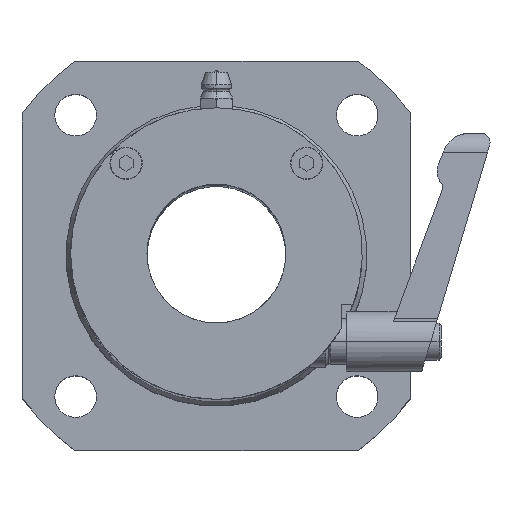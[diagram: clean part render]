
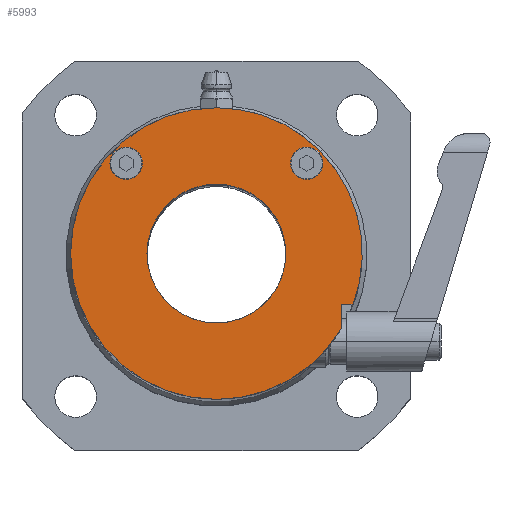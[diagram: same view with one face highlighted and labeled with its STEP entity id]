
A CAD part, top view. The second image highlights one B-rep face of the part: STEP entity #5993.
In plain terms, the highlighted planar face has unit normal (0, 0, 1).
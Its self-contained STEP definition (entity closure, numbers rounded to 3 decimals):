
#152 = EDGE_CURVE ( 'NONE', #6840, #1493, #10259, .T. ) ;
#246 = CARTESIAN_POINT ( 'NONE',  ( -5.596, -30.978, 70.5 ) ) ;
#388 = EDGE_CURVE ( 'NONE', #6047, #11113, #1177, .T. ) ;
#409 = LINE ( 'NONE', #7457, #7713 ) ;
#445 = CIRCLE ( 'NONE', #5968, 15. ) ;
#564 = AXIS2_PLACEMENT_3D ( 'NONE', #6629, #10351, #2352 ) ;
#625 = EDGE_LOOP ( 'NONE', ( #1745, #6887 ) ) ;
#691 = CARTESIAN_POINT ( 'NONE',  ( -5.596, 0.522, 70.5 ) ) ;
#788 = CARTESIAN_POINT ( 'NONE',  ( -5.596, 15.522, 70.5 ) ) ;
#824 = CARTESIAN_POINT ( 'NONE',  ( -5.596, 0.522, 70.5 ) ) ;
#963 = CARTESIAN_POINT ( 'NONE',  ( 21.404, -10.478, 70.5 ) ) ;
#976 = EDGE_LOOP ( 'NONE', ( #7195, #8404, #3381, #7323, #10565 ) ) ;
#1082 = EDGE_CURVE ( 'NONE', #1493, #5018, #9737, .T. ) ;
#1094 = VECTOR ( 'NONE', #6486, 1000. ) ;
#1109 = FACE_BOUND ( 'NONE', #625, .T. ) ;
#1177 = CIRCLE ( 'NONE', #5222, 3.5 ) ;
#1189 = CARTESIAN_POINT ( 'NONE',  ( 10.404, 20.022, 70.5 ) ) ;
#1417 = EDGE_CURVE ( 'NONE', #11169, #4481, #445, .T. ) ;
#1493 = VERTEX_POINT ( 'NONE', #4410 ) ;
#1745 = ORIENTED_EDGE ( 'NONE', *, *, #3448, .F. ) ;
#1886 = CARTESIAN_POINT ( 'NONE',  ( -5.596, 0.522, 70.5 ) ) ;
#2008 = FACE_OUTER_BOUND ( 'NONE', #976, .T. ) ;
#2018 = DIRECTION ( 'NONE',  ( 0., 0., 1. ) ) ;
#2074 = CARTESIAN_POINT ( 'NONE',  ( -25.096, 20.022, 70.5 ) ) ;
#2257 = EDGE_CURVE ( 'NONE', #6840, #7681, #409, .T. ) ;
#2352 = DIRECTION ( 'NONE',  ( 0., -1., 0. ) ) ;
#2517 = CARTESIAN_POINT ( 'NONE',  ( -5.596, -14.478, 70.5 ) ) ;
#2816 = DIRECTION ( 'NONE',  ( 0., 0., 1. ) ) ;
#2926 = FACE_BOUND ( 'NONE', #3914, .T. ) ;
#3036 = CARTESIAN_POINT ( 'NONE',  ( 21.404, -10.478, 70.5 ) ) ;
#3154 = VERTEX_POINT ( 'NONE', #3235 ) ;
#3235 = CARTESIAN_POINT ( 'NONE',  ( 17.404, 20.022, 70.5 ) ) ;
#3381 = ORIENTED_EDGE ( 'NONE', *, *, #152, .T. ) ;
#3404 = DIRECTION ( 'NONE',  ( 1., 0., 0. ) ) ;
#3448 = EDGE_CURVE ( 'NONE', #8814, #3154, #5895, .T. ) ;
#3461 = CIRCLE ( 'NONE', #8470, 31.5 ) ;
#3693 = DIRECTION ( 'NONE',  ( 0., 0., 1. ) ) ;
#3763 = DIRECTION ( 'NONE',  ( 0., 0., 1. ) ) ;
#3829 = DIRECTION ( 'NONE',  ( 0., -1., 0. ) ) ;
#3863 = DIRECTION ( 'NONE',  ( 1., 0., 0. ) ) ;
#3914 = EDGE_LOOP ( 'NONE', ( #4588, #7735 ) ) ;
#3917 = CARTESIAN_POINT ( 'NONE',  ( -25.096, 20.022, 70.5 ) ) ;
#4410 = CARTESIAN_POINT ( 'NONE',  ( -5.596, 32.022, 70.5 ) ) ;
#4471 = EDGE_CURVE ( 'NONE', #11113, #6047, #9752, .T. ) ;
#4481 = VERTEX_POINT ( 'NONE', #2517 ) ;
#4585 = LINE ( 'NONE', #963, #1094 ) ;
#4588 = ORIENTED_EDGE ( 'NONE', *, *, #4471, .F. ) ;
#4969 = CIRCLE ( 'NONE', #8448, 3.5 ) ;
#5018 = VERTEX_POINT ( 'NONE', #246 ) ;
#5162 = CARTESIAN_POINT ( 'NONE',  ( 13.904, 20.022, 70.5 ) ) ;
#5222 = AXIS2_PLACEMENT_3D ( 'NONE', #2074, #2018, #3863 ) ;
#5340 = DIRECTION ( 'NONE',  ( 0., -1., 0. ) ) ;
#5715 = CIRCLE ( 'NONE', #564, 15. ) ;
#5895 = CIRCLE ( 'NONE', #9072, 3.5 ) ;
#5968 = AXIS2_PLACEMENT_3D ( 'NONE', #824, #6258, #5340 ) ;
#5993 = ADVANCED_FACE ( 'NONE', ( #1109, #2926, #2008, #6226 ), #6287, .T. ) ;
#6047 = VERTEX_POINT ( 'NONE', #7089 ) ;
#6167 = DIRECTION ( 'NONE',  ( 0., 0., 1. ) ) ;
#6226 = FACE_BOUND ( 'NONE', #11277, .T. ) ;
#6258 = DIRECTION ( 'NONE',  ( 0., 0., 1. ) ) ;
#6287 = PLANE ( 'NONE',  #8983 ) ;
#6344 = DIRECTION ( 'NONE',  ( 1., 0., 0. ) ) ;
#6355 = CARTESIAN_POINT ( 'NONE',  ( -5.596, 0.522, 70.5 ) ) ;
#6486 = DIRECTION ( 'NONE',  ( 0., -1., 0. ) ) ;
#6629 = CARTESIAN_POINT ( 'NONE',  ( -5.596, 0.522, 70.5 ) ) ;
#6838 = DIRECTION ( 'NONE',  ( 0., 0., 1. ) ) ;
#6840 = VERTEX_POINT ( 'NONE', #7047 ) ;
#6887 = ORIENTED_EDGE ( 'NONE', *, *, #9075, .F. ) ;
#6952 = ORIENTED_EDGE ( 'NONE', *, *, #1417, .F. ) ;
#7047 = CARTESIAN_POINT ( 'NONE',  ( 23.921, -10.478, 70.5 ) ) ;
#7089 = CARTESIAN_POINT ( 'NONE',  ( -21.596, 20.022, 70.5 ) ) ;
#7195 = ORIENTED_EDGE ( 'NONE', *, *, #8759, .F. ) ;
#7220 = DIRECTION ( 'NONE',  ( 0., -1., 0. ) ) ;
#7275 = CARTESIAN_POINT ( 'NONE',  ( 13.904, 20.022, 70.5 ) ) ;
#7323 = ORIENTED_EDGE ( 'NONE', *, *, #1082, .T. ) ;
#7457 = CARTESIAN_POINT ( 'NONE',  ( 21.404, -10.478, 70.5 ) ) ;
#7522 = AXIS2_PLACEMENT_3D ( 'NONE', #691, #6167, #9706 ) ;
#7681 = VERTEX_POINT ( 'NONE', #3036 ) ;
#7685 = AXIS2_PLACEMENT_3D ( 'NONE', #6355, #3693, #9160 ) ;
#7713 = VECTOR ( 'NONE', #9100, 1000. ) ;
#7735 = ORIENTED_EDGE ( 'NONE', *, *, #388, .F. ) ;
#8196 = CARTESIAN_POINT ( 'NONE',  ( -28.596, 20.022, 70.5 ) ) ;
#8404 = ORIENTED_EDGE ( 'NONE', *, *, #2257, .F. ) ;
#8439 = DIRECTION ( 'NONE',  ( 0., 0., 1. ) ) ;
#8448 = AXIS2_PLACEMENT_3D ( 'NONE', #5162, #6838, #3404 ) ;
#8470 = AXIS2_PLACEMENT_3D ( 'NONE', #10918, #3763, #3829 ) ;
#8722 = DIRECTION ( 'NONE',  ( 1., 0., 0. ) ) ;
#8759 = EDGE_CURVE ( 'NONE', #7681, #9744, #4585, .T. ) ;
#8814 = VERTEX_POINT ( 'NONE', #1189 ) ;
#8845 = EDGE_CURVE ( 'NONE', #5018, #9744, #3461, .T. ) ;
#8901 = DIRECTION ( 'NONE',  ( 0., 0., 1. ) ) ;
#8983 = AXIS2_PLACEMENT_3D ( 'NONE', #1886, #8901, #7220 ) ;
#9072 = AXIS2_PLACEMENT_3D ( 'NONE', #7275, #2816, #6344 ) ;
#9075 = EDGE_CURVE ( 'NONE', #3154, #8814, #4969, .T. ) ;
#9100 = DIRECTION ( 'NONE',  ( -1., 0., 0. ) ) ;
#9160 = DIRECTION ( 'NONE',  ( 0., -1., 0. ) ) ;
#9186 = CARTESIAN_POINT ( 'NONE',  ( 21.404, -15.703, 70.5 ) ) ;
#9252 = ORIENTED_EDGE ( 'NONE', *, *, #10471, .F. ) ;
#9706 = DIRECTION ( 'NONE',  ( 0., -1., 0. ) ) ;
#9737 = CIRCLE ( 'NONE', #7522, 31.5 ) ;
#9744 = VERTEX_POINT ( 'NONE', #9186 ) ;
#9752 = CIRCLE ( 'NONE', #10502, 3.5 ) ;
#10259 = CIRCLE ( 'NONE', #7685, 31.5 ) ;
#10351 = DIRECTION ( 'NONE',  ( 0., 0., 1. ) ) ;
#10471 = EDGE_CURVE ( 'NONE', #4481, #11169, #5715, .T. ) ;
#10502 = AXIS2_PLACEMENT_3D ( 'NONE', #3917, #8439, #8722 ) ;
#10565 = ORIENTED_EDGE ( 'NONE', *, *, #8845, .T. ) ;
#10918 = CARTESIAN_POINT ( 'NONE',  ( -5.596, 0.522, 70.5 ) ) ;
#11113 = VERTEX_POINT ( 'NONE', #8196 ) ;
#11169 = VERTEX_POINT ( 'NONE', #788 ) ;
#11277 = EDGE_LOOP ( 'NONE', ( #6952, #9252 ) ) ;
